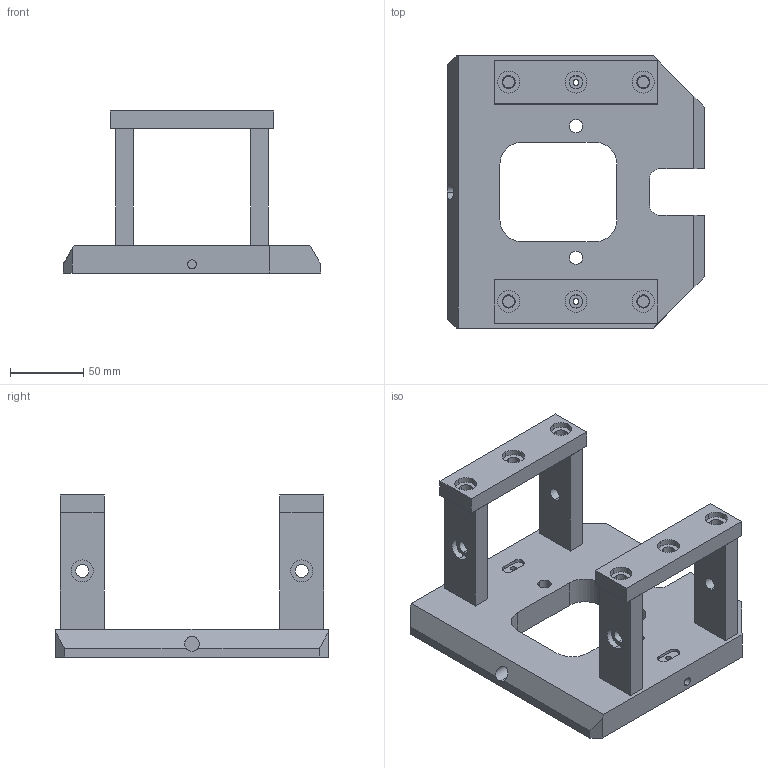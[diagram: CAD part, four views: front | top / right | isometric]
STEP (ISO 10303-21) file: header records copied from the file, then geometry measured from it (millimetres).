
FILE_DESCRIPTION(('STEP AP214'),'1');
FILE_NAME('EGT023_1727846_GREIFERAUFNAHME_K.CATPart.stp','2015-09-14T13:04:50',('3D-Tool'),(' '),'Spatial InterOp 3D',' ',' ');
FILE_SCHEMA(('automotive_design'));
Length unit declared in the file: millimetre
Products named in the file (7): EGT023_1727846_GREIFERAUFNAHME_K|Body.23 ( *SOL6 - wsp *MASTER -  )|Solid.22 (  with JELE 7494 : from *SOL6 - wsp *MASTER -  ) ( Brep from *SOL6 ); EGT023_1727846_GREIFERAUFNAHME_K|Body.24 ( *SOL144 - wsp *MASTER -  )|Solid.23 (  with JELE 7498 : from *SOL144 - wsp *MASTER -  ) ( Brep from *SOL144 ); EGT023_1727846_GREIFERAUFNAHME_K|Body.25 ( *SOL142 - wsp *MASTER -  )|Solid.24 (  with JELE 11067 : from *SOL142 - wsp *MASTER -  ) ( Brep from *SOL142 ); EGT023_1727846_GREIFERAUFNAHME_K|Body.26 ( *SOL165 - wsp *MASTER -  )|Solid.25 (  with JELE 11449 : from *SOL165 - wsp *MASTER -  ) ( Brep from *SOL165 ); EGT023_1727846_GREIFERAUFNAHME_K|Body.27 ( *SOL147 - wsp *MASTER -  )|Solid.26 (  with JELE 12319 : from *SOL147 - wsp *MASTER -  ) ( Brep from *SOL147 ); EGT023_1727846_GREIFERAUFNAHME_K|Body.28 ( *SOL124 - wsp *MASTER -  )|Solid.27 (  with JELE 12701 : from *SOL124 - wsp *MASTER -  ) ( Brep from *SOL124 ); EGT023_1727846_GREIFERAUFNAHME_K|Body.29 ( *SOL143 - wsp *MASTER -  )|Solid.28 (  with JELE 12705 : from *SOL143 - wsp *MASTER -  ) ( Brep from *SOL143 )
Bounding box: 176 x 186 x 110.8 mm (x, y, z)
Volume: 605391.8 mm3; surface area: 135324.6 mm2
Topology: 7 solids, 7 shells, 225 faces, 528 edges, 352 vertices
Faces by surface type: cylinder 128, plane 97
Entity records: 8619 total; most frequent: DIRECTION 1250, CARTESIAN_POINT 1112, ORIENTED_EDGE 1056, EDGE_CURVE 528, AXIS2_PLACEMENT_3D 490, VERTEX_POINT 352, EDGE_LOOP 308, LINE 270
